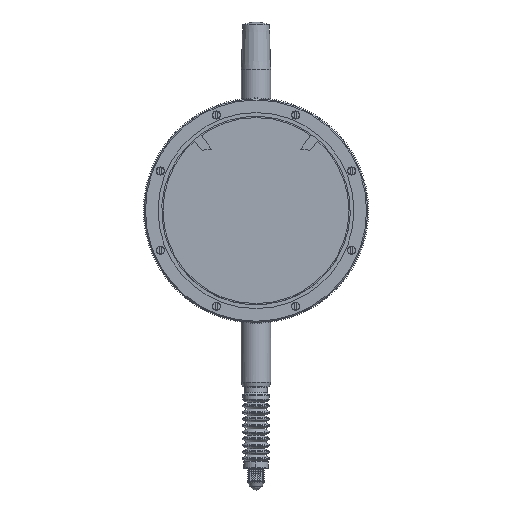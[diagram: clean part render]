
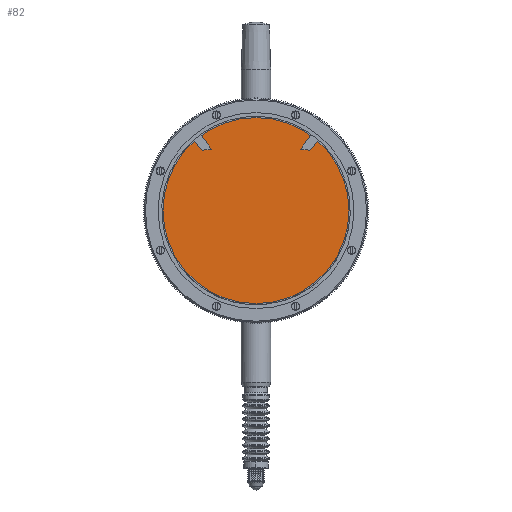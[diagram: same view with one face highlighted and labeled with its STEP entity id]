
A CAD part, front view. The second image highlights one B-rep face of the part: STEP entity #82.
In plain terms, the highlighted planar face has unit normal (0, -1, 0).
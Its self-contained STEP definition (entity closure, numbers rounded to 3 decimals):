
#82=ADVANCED_FACE('',(#2053),#2054,.T.);
#2053=FACE_OUTER_BOUND('',#6250,.T.);
#2054=PLANE('',#6251);
#6250=EDGE_LOOP('',(#15445,#15446));
#6251=AXIS2_PLACEMENT_3D('',#15447,#15448,#15449);
#15445=ORIENTED_EDGE('',*,*,#30710,.F.);
#15446=ORIENTED_EDGE('',*,*,#30708,.F.);
#15447=CARTESIAN_POINT('',(0.0,-13.55,0.));
#15448=DIRECTION('',(0.0,-1.0,0.0));
#15449=DIRECTION('',(1.0,0.0,0.0));
#30708=EDGE_CURVE('',#36755,#36751,#36757,.T.);
#30710=EDGE_CURVE('',#36751,#36755,#36759,.T.);
#36751=VERTEX_POINT('',#44272);
#36755=VERTEX_POINT('',#44277);
#36757=CIRCLE('',#44280,26.925);
#36759=CIRCLE('',#44282,26.925);
#44272=CARTESIAN_POINT('',(26.925,-13.55,0.));
#44277=CARTESIAN_POINT('',(-26.925,-13.55,0.));
#44280=AXIS2_PLACEMENT_3D('',#73731,#73732,#73733);
#44282=AXIS2_PLACEMENT_3D('',#73737,#73738,#73739);
#73731=CARTESIAN_POINT('',(0.0,-13.55,0.));
#73732=DIRECTION('',(-0.0,1.0,0.0));
#73733=DIRECTION('',(1.0,0.0,0.0));
#73737=CARTESIAN_POINT('',(0.0,-13.55,0.));
#73738=DIRECTION('',(-0.0,1.0,0.0));
#73739=DIRECTION('',(1.0,0.0,0.0));
